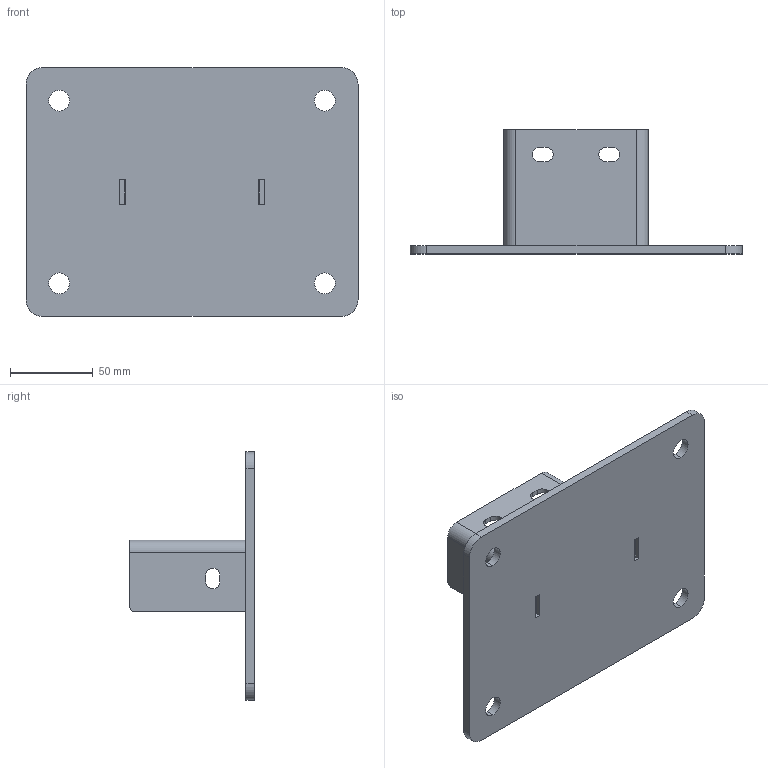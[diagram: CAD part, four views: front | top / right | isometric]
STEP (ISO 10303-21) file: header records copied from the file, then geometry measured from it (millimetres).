
FILE_DESCRIPTION (( 'STEP AP214' ), '1' );
FILE_NAME ('1G-1525-FPG.STEP', '2025-06-12T19:12:53', ( '' ), ( '' ), 'SwSTEP 2.0', 'SolidWorks 2023', '' );
FILE_SCHEMA (( 'AUTOMOTIVE_DESIGN' ));
Length unit declared in the file: millimetre
Products named in the file (3): 1G-1525-FPG; 1G-1525-FPG-40x80-Upright; 1G-1525-FPG-40x80-Foot Pate
Assembly tree (2 placements, depth 2):
  1G-1525-FPG
    1G-1525-FPG-40x80-Foot Pate
    1G-1525-FPG-40x80-Upright
Bounding box: 200 x 75 x 150 mm (x, y, z)
Volume: 179767.9 mm3; surface area: 87175.3 mm2
Topology: 2 solids, 2 shells, 78 faces, 206 edges, 132 vertices
Faces by surface type: plane 48, cylinder 30
Entity records: 2530 total; most frequent: DIRECTION 432, CARTESIAN_POINT 421, ORIENTED_EDGE 412, EDGE_CURVE 206, VECTOR 146, LINE 146, AXIS2_PLACEMENT_3D 143, VERTEX_POINT 132
